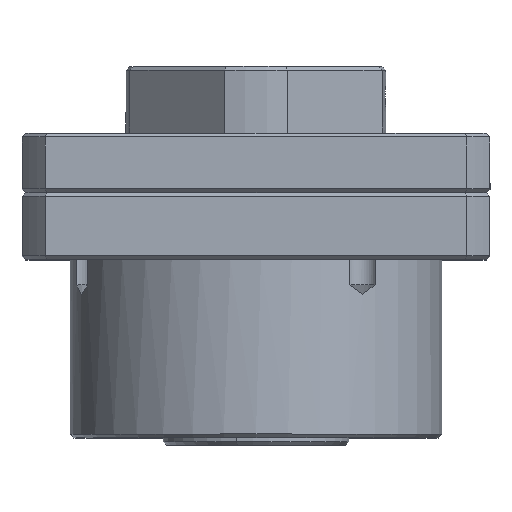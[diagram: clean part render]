
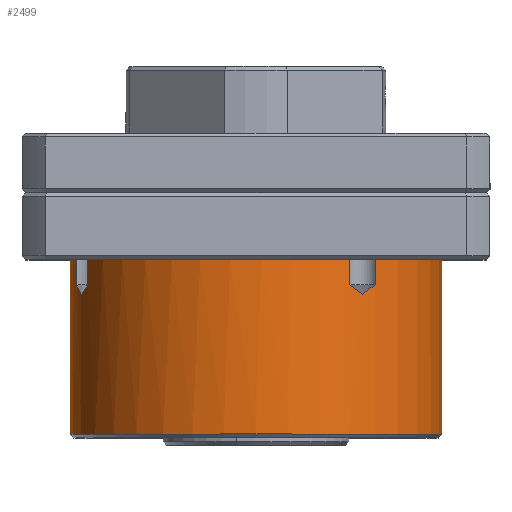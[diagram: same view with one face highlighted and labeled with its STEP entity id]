
A CAD part, top view. The second image highlights one B-rep face of the part: STEP entity #2499.
In plain terms, the highlighted cylindrical face has radius 25 mm (diameter 50 mm), a partial arc.
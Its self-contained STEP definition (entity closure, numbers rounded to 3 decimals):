
#46 = CARTESIAN_POINT ( 'NONE',  ( 14.339, 19.308, 20.479 ) ) ;
#83 = CARTESIAN_POINT ( 'NONE',  ( -24.14, 20.6, 6.5 ) ) ;
#111 = VERTEX_POINT ( 'NONE', #5492 ) ;
#115 = CARTESIAN_POINT ( 'NONE',  ( -23.492, 19.308, 8.551 ) ) ;
#201 = DIRECTION ( 'NONE',  ( 1., 0., 0. ) ) ;
#272 = DIRECTION ( 'NONE',  ( 0., -1., 0. ) ) ;
#306 = EDGE_CURVE ( 'NONE', #4194, #3667, #6150, .T. ) ;
#473 = CARTESIAN_POINT ( 'NONE',  ( -22.671, 24., 10.537 ) ) ;
#648 = EDGE_CURVE ( 'NONE', #4729, #1347, #5867, .T. ) ;
#764 = VERTEX_POINT ( 'NONE', #7033 ) ;
#804 = ORIENTED_EDGE ( 'NONE', *, *, #2246, .F. ) ;
#953 = CARTESIAN_POINT ( 'NONE',  ( 14.927, 19.739, 20.067 ) ) ;
#1120 = DIRECTION ( 'NONE',  ( 0., -1., 0. ) ) ;
#1131 = CARTESIAN_POINT ( 'NONE',  ( 13.147, 20.17, 21.276 ) ) ;
#1184 = CARTESIAN_POINT ( 'NONE',  ( -22.671, 20.6, 10.537 ) ) ;
#1243 = EDGE_CURVE ( 'NONE', #4494, #7689, #2382, .T. ) ;
#1280 = ORIENTED_EDGE ( 'NONE', *, *, #7737, .T. ) ;
#1294 = B_SPLINE_CURVE_WITH_KNOTS ( 'NONE', 3,
 ( #83, #5641, #3830, #115 ),
 .UNSPECIFIED., .F., .F.,
 ( 4, 4 ),
 ( 0.002, 0.004 ),
 .UNSPECIFIED. ) ;
#1308 = EDGE_CURVE ( 'NONE', #6645, #4729, #1447, .T. ) ;
#1309 = VECTOR ( 'NONE', #4977, 1000. ) ;
#1347 = VERTEX_POINT ( 'NONE', #2700 ) ;
#1399 = FACE_OUTER_BOUND ( 'NONE', #2931, .T. ) ;
#1447 = B_SPLINE_CURVE_WITH_KNOTS ( 'NONE', 3,
 ( #46, #953, #7212, #7829 ),
 .UNSPECIFIED., .F., .F.,
 ( 4, 4 ),
 ( 0., 0.003 ),
 .UNSPECIFIED. ) ;
#1894 = VECTOR ( 'NONE', #5511, 1000. ) ;
#1948 = EDGE_CURVE ( 'NONE', #764, #4194, #6672, .T. ) ;
#2090 = CARTESIAN_POINT ( 'NONE',  ( -23.492, 19.308, 8.551 ) ) ;
#2246 = EDGE_CURVE ( 'NONE', #4066, #6926, #3144, .T. ) ;
#2267 = DIRECTION ( 'NONE',  ( 0., -1., 0. ) ) ;
#2353 = CARTESIAN_POINT ( 'NONE',  ( 13.753, 19.739, 20.89 ) ) ;
#2367 = ORIENTED_EDGE ( 'NONE', *, *, #5340, .F. ) ;
#2382 = LINE ( 'NONE', #3452, #3844 ) ;
#2499 = ADVANCED_FACE ( 'NONE', ( #1399 ), #2853, .T. ) ;
#2540 = CARTESIAN_POINT ( 'NONE',  ( -22.671, 20.6, 10.537 ) ) ;
#2695 = EDGE_CURVE ( 'NONE', #4480, #6645, #6187, .T. ) ;
#2700 = CARTESIAN_POINT ( 'NONE',  ( 16.046, 24., 19.171 ) ) ;
#2736 = DIRECTION ( 'NONE',  ( 0., -1., 0. ) ) ;
#2853 = CYLINDRICAL_SURFACE ( 'NONE', #4701, 25. ) ;
#2931 = EDGE_LOOP ( 'NONE', ( #5645, #5151, #4546, #2367, #3231, #6869, #5922, #3911, #6692, #1280, #804, #3546, #7418, #4493 ) ) ;
#2998 = CARTESIAN_POINT ( 'NONE',  ( 0., 0.5, 0. ) ) ;
#3024 = DIRECTION ( 'NONE',  ( 0., 1., 0. ) ) ;
#3144 = LINE ( 'NONE', #5216, #1309 ) ;
#3174 = VERTEX_POINT ( 'NONE', #2090 ) ;
#3231 = ORIENTED_EDGE ( 'NONE', *, *, #4200, .T. ) ;
#3338 = CARTESIAN_POINT ( 'NONE',  ( -25., 0.5, 0. ) ) ;
#3433 = CARTESIAN_POINT ( 'NONE',  ( -24.14, 24., 6.5 ) ) ;
#3452 = CARTESIAN_POINT ( 'NONE',  ( -24.14, 26.8, 6.5 ) ) ;
#3497 = LINE ( 'NONE', #5378, #6545 ) ;
#3542 = DIRECTION ( 'NONE',  ( 1., 0., 0. ) ) ;
#3546 = ORIENTED_EDGE ( 'NONE', *, *, #3927, .F. ) ;
#3590 = DIRECTION ( 'NONE',  ( 0., -1., 0. ) ) ;
#3667 = VERTEX_POINT ( 'NONE', #7644 ) ;
#3830 = CARTESIAN_POINT ( 'NONE',  ( -23.737, 19.739, 7.877 ) ) ;
#3844 = VECTOR ( 'NONE', #6543, 1000. ) ;
#3911 = ORIENTED_EDGE ( 'NONE', *, *, #2695, .F. ) ;
#3915 = DIRECTION ( 'NONE',  ( 0., -1., 0. ) ) ;
#3927 = EDGE_CURVE ( 'NONE', #3174, #4066, #7426, .T. ) ;
#3930 = CARTESIAN_POINT ( 'NONE',  ( 12.527, 24., 21.635 ) ) ;
#3935 = CARTESIAN_POINT ( 'NONE',  ( 16.046, 26.8, 19.171 ) ) ;
#4058 = VECTOR ( 'NONE', #4102, 1000. ) ;
#4066 = VERTEX_POINT ( 'NONE', #2540 ) ;
#4102 = DIRECTION ( 'NONE',  ( 0., 1., 0. ) ) ;
#4153 = AXIS2_PLACEMENT_3D ( 'NONE', #5959, #2267, #6562 ) ;
#4194 = VERTEX_POINT ( 'NONE', #3338 ) ;
#4200 = EDGE_CURVE ( 'NONE', #111, #1347, #7378, .T. ) ;
#4299 = CARTESIAN_POINT ( 'NONE',  ( 12.527, 26.8, 21.635 ) ) ;
#4332 = DIRECTION ( 'NONE',  ( 1., 0., 0. ) ) ;
#4336 = CARTESIAN_POINT ( 'NONE',  ( 0., 0., 0. ) ) ;
#4384 = CARTESIAN_POINT ( 'NONE',  ( -25., 0., 0. ) ) ;
#4480 = VERTEX_POINT ( 'NONE', #7649 ) ;
#4493 = ORIENTED_EDGE ( 'NONE', *, *, #1243, .F. ) ;
#4494 = VERTEX_POINT ( 'NONE', #3433 ) ;
#4546 = ORIENTED_EDGE ( 'NONE', *, *, #306, .T. ) ;
#4673 = CARTESIAN_POINT ( 'NONE',  ( -24.14, 20.6, 6.5 ) ) ;
#4701 = AXIS2_PLACEMENT_3D ( 'NONE', #4336, #3590, #3542 ) ;
#4729 = VERTEX_POINT ( 'NONE', #4980 ) ;
#4844 = EDGE_CURVE ( 'NONE', #4494, #764, #5793, .T. ) ;
#4861 = CARTESIAN_POINT ( 'NONE',  ( -22.973, 20.17, 9.888 ) ) ;
#4977 = DIRECTION ( 'NONE',  ( 0., 1., 0. ) ) ;
#4980 = CARTESIAN_POINT ( 'NONE',  ( 16.046, 20.6, 19.171 ) ) ;
#5151 = ORIENTED_EDGE ( 'NONE', *, *, #1948, .T. ) ;
#5216 = CARTESIAN_POINT ( 'NONE',  ( -22.671, 26.8, 10.537 ) ) ;
#5293 = AXIS2_PLACEMENT_3D ( 'NONE', #2998, #3024, #4332 ) ;
#5340 = EDGE_CURVE ( 'NONE', #111, #3667, #3497, .T. ) ;
#5378 = CARTESIAN_POINT ( 'NONE',  ( 25., 0., 0. ) ) ;
#5426 = CARTESIAN_POINT ( 'NONE',  ( 12.527, 20.6, 21.635 ) ) ;
#5492 = CARTESIAN_POINT ( 'NONE',  ( 25., 24., 0. ) ) ;
#5511 = DIRECTION ( 'NONE',  ( 0., -1., 0. ) ) ;
#5641 = CARTESIAN_POINT ( 'NONE',  ( -23.954, 20.17, 7.192 ) ) ;
#5645 = ORIENTED_EDGE ( 'NONE', *, *, #4844, .T. ) ;
#5647 = CIRCLE ( 'NONE', #4153, 25. ) ;
#5657 = CARTESIAN_POINT ( 'NONE',  ( 14.339, 19.308, 20.479 ) ) ;
#5793 = CIRCLE ( 'NONE', #5986, 25. ) ;
#5867 = LINE ( 'NONE', #3935, #4058 ) ;
#5922 = ORIENTED_EDGE ( 'NONE', *, *, #1308, .F. ) ;
#5959 = CARTESIAN_POINT ( 'NONE',  ( 0., 24., 0. ) ) ;
#5986 = AXIS2_PLACEMENT_3D ( 'NONE', #7523, #3915, #201 ) ;
#6150 = CIRCLE ( 'NONE', #5293, 25. ) ;
#6173 = EDGE_CURVE ( 'NONE', #7689, #3174, #1294, .T. ) ;
#6187 = B_SPLINE_CURVE_WITH_KNOTS ( 'NONE', 3,
 ( #5426, #1131, #2353, #6636 ),
 .UNSPECIFIED., .F., .F.,
 ( 4, 4 ),
 ( 0.002, 0.004 ),
 .UNSPECIFIED. ) ;
#6404 = CARTESIAN_POINT ( 'NONE',  ( 0., 24., 0. ) ) ;
#6496 = VECTOR ( 'NONE', #272, 1000. ) ;
#6543 = DIRECTION ( 'NONE',  ( 0., -1., 0. ) ) ;
#6545 = VECTOR ( 'NONE', #1120, 1000. ) ;
#6562 = DIRECTION ( 'NONE',  ( 1., 0., 0. ) ) ;
#6636 = CARTESIAN_POINT ( 'NONE',  ( 14.339, 19.308, 20.479 ) ) ;
#6645 = VERTEX_POINT ( 'NONE', #5657 ) ;
#6658 = CARTESIAN_POINT ( 'NONE',  ( -23.492, 19.308, 8.551 ) ) ;
#6672 = LINE ( 'NONE', #4384, #6496 ) ;
#6692 = ORIENTED_EDGE ( 'NONE', *, *, #7020, .F. ) ;
#6765 = LINE ( 'NONE', #4299, #1894 ) ;
#6788 = VERTEX_POINT ( 'NONE', #3930 ) ;
#6802 = AXIS2_PLACEMENT_3D ( 'NONE', #6404, #2736, #6984 ) ;
#6869 = ORIENTED_EDGE ( 'NONE', *, *, #648, .F. ) ;
#6926 = VERTEX_POINT ( 'NONE', #473 ) ;
#6984 = DIRECTION ( 'NONE',  ( 1., 0., 0. ) ) ;
#7020 = EDGE_CURVE ( 'NONE', #6788, #4480, #6765, .T. ) ;
#7033 = CARTESIAN_POINT ( 'NONE',  ( -25., 24., 0. ) ) ;
#7212 = CARTESIAN_POINT ( 'NONE',  ( 15.496, 20.17, 19.631 ) ) ;
#7250 = CARTESIAN_POINT ( 'NONE',  ( -23.247, 19.739, 9.224 ) ) ;
#7378 = CIRCLE ( 'NONE', #6802, 25. ) ;
#7418 = ORIENTED_EDGE ( 'NONE', *, *, #6173, .F. ) ;
#7426 = B_SPLINE_CURVE_WITH_KNOTS ( 'NONE', 3,
 ( #6658, #7250, #4861, #1184 ),
 .UNSPECIFIED., .F., .F.,
 ( 4, 4 ),
 ( 0., 0.003 ),
 .UNSPECIFIED. ) ;
#7523 = CARTESIAN_POINT ( 'NONE',  ( 0., 24., 0. ) ) ;
#7644 = CARTESIAN_POINT ( 'NONE',  ( 25., 0.5, 0. ) ) ;
#7649 = CARTESIAN_POINT ( 'NONE',  ( 12.527, 20.6, 21.635 ) ) ;
#7689 = VERTEX_POINT ( 'NONE', #4673 ) ;
#7737 = EDGE_CURVE ( 'NONE', #6788, #6926, #5647, .T. ) ;
#7829 = CARTESIAN_POINT ( 'NONE',  ( 16.046, 20.6, 19.171 ) ) ;
